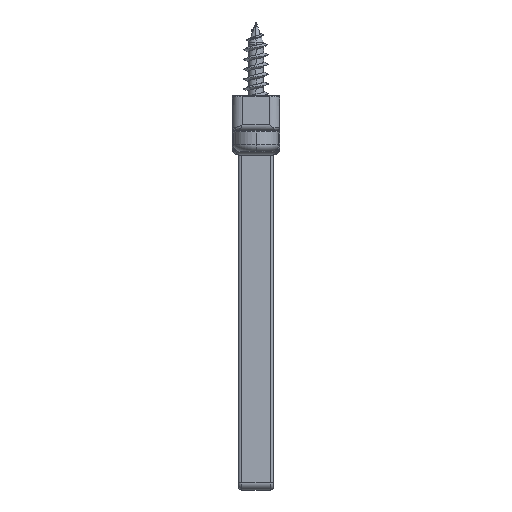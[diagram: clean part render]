
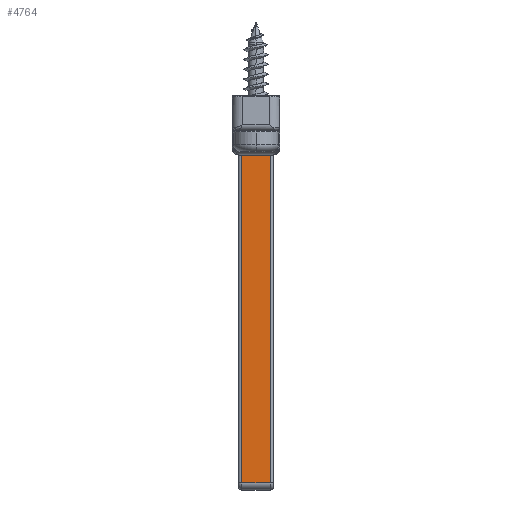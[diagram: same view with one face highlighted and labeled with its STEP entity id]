
A CAD part, front view. The second image highlights one B-rep face of the part: STEP entity #4764.
In plain terms, the highlighted planar face has unit normal (0, -1, 0).
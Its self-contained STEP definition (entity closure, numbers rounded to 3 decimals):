
#45 = CARTESIAN_POINT ( 'NONE',  ( 2.05, -3.5, 42. ) ) ;
#89 = DIRECTION ( 'NONE',  ( 0., 1., 0. ) ) ;
#373 = DIRECTION ( 'NONE',  ( 0., 0., -1. ) ) ;
#788 = VECTOR ( 'NONE', #14127, 1000. ) ;
#857 = AXIS2_PLACEMENT_3D ( 'NONE', #15689, #89, #11034 ) ;
#1590 = CARTESIAN_POINT ( 'NONE',  ( 2.05, -3.5, -4.8 ) ) ;
#1650 = VECTOR ( 'NONE', #8794, 1000. ) ;
#1779 = EDGE_LOOP ( 'NONE', ( #17847, #13423, #6308, #9582 ) ) ;
#2153 = LINE ( 'NONE', #13499, #1650 ) ;
#3210 = VERTEX_POINT ( 'NONE', #45 ) ;
#3677 = FACE_OUTER_BOUND ( 'NONE', #1779, .T. ) ;
#3726 = VERTEX_POINT ( 'NONE', #6375 ) ;
#3799 = CARTESIAN_POINT ( 'NONE',  ( -2.05, -3.5, 42. ) ) ;
#4764 = ADVANCED_FACE ( 'NONE', ( #3677 ), #17212, .F. ) ;
#6308 = ORIENTED_EDGE ( 'NONE', *, *, #6714, .F. ) ;
#6375 = CARTESIAN_POINT ( 'NONE',  ( -2.05, -3.5, -4.8 ) ) ;
#6590 = EDGE_CURVE ( 'NONE', #10299, #3210, #10981, .T. ) ;
#6714 = EDGE_CURVE ( 'NONE', #10299, #3726, #2153, .T. ) ;
#6748 = DIRECTION ( 'NONE',  ( 0., 0., 1. ) ) ;
#8316 = CARTESIAN_POINT ( 'NONE',  ( 2.05, -3.5, 55.039 ) ) ;
#8765 = VERTEX_POINT ( 'NONE', #3799 ) ;
#8794 = DIRECTION ( 'NONE',  ( -1., 0., 0. ) ) ;
#9105 = LINE ( 'NONE', #9366, #788 ) ;
#9366 = CARTESIAN_POINT ( 'NONE',  ( -7.45, -3.5, 42. ) ) ;
#9582 = ORIENTED_EDGE ( 'NONE', *, *, #6590, .T. ) ;
#9715 = CARTESIAN_POINT ( 'NONE',  ( -2.05, -3.5, 55.039 ) ) ;
#10299 = VERTEX_POINT ( 'NONE', #1590 ) ;
#10981 = LINE ( 'NONE', #8316, #19297 ) ;
#11034 = DIRECTION ( 'NONE',  ( -1., 0., 0. ) ) ;
#13423 = ORIENTED_EDGE ( 'NONE', *, *, #18521, .T. ) ;
#13499 = CARTESIAN_POINT ( 'NONE',  ( 54.527, -3.5, -4.8 ) ) ;
#14053 = VECTOR ( 'NONE', #373, 1000. ) ;
#14127 = DIRECTION ( 'NONE',  ( 1., 0., 0. ) ) ;
#15689 = CARTESIAN_POINT ( 'NONE',  ( -2.55, -3.5, 55.039 ) ) ;
#17212 = PLANE ( 'NONE',  #857 ) ;
#17847 = ORIENTED_EDGE ( 'NONE', *, *, #18982, .F. ) ;
#18185 = LINE ( 'NONE', #9715, #14053 ) ;
#18521 = EDGE_CURVE ( 'NONE', #8765, #3726, #18185, .T. ) ;
#18982 = EDGE_CURVE ( 'NONE', #8765, #3210, #9105, .T. ) ;
#19297 = VECTOR ( 'NONE', #6748, 1000. ) ;
